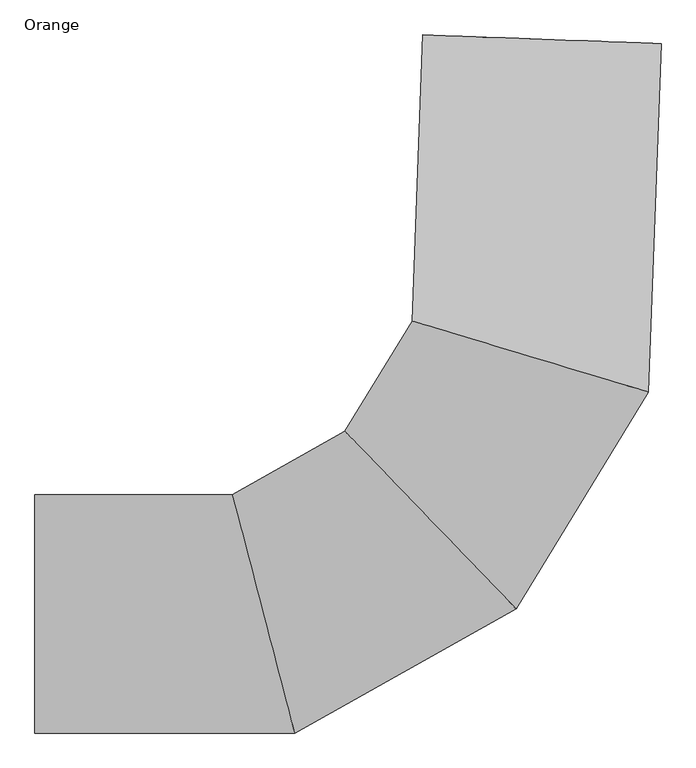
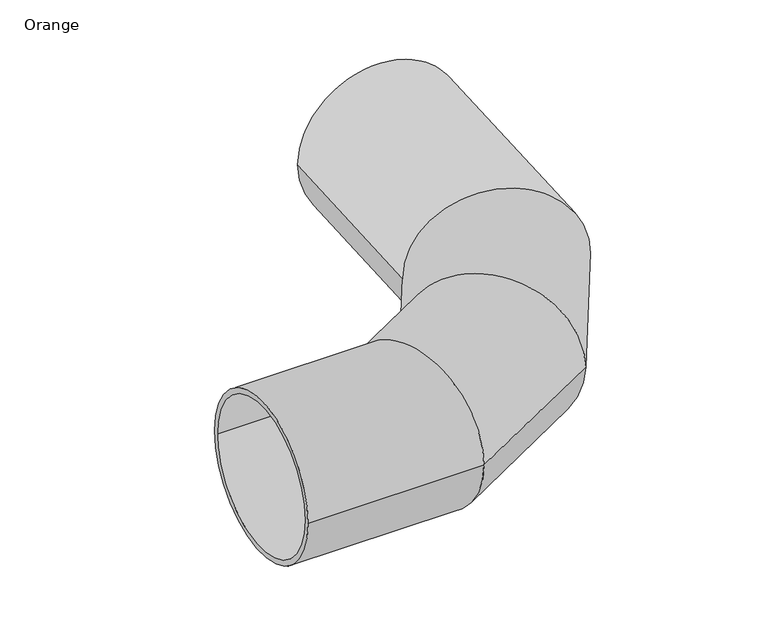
"""IFC4 building model written with IfcOpenShell, lengths in millimetres: pipe fitting geometry, AWADUKT PP SN10 SBend : Orange."""

from ifc_helpers import new_model, si_unit, frame, origin, place, context, project, spatial, polyline, circle_curve, ellipse_curve, source, transform, mapped, element, save
from ifc_brep_helpers import plane_surface, cylinder_surface, revolved_surface, advanced_brep


def orange_127dd680(model_context):
    return source(origin(), model_context, "Body", "AdvancedBrep", [
        advanced_brep(
        [(-1283.5, -315.0, 0.0), (-1283.5, 315.0, 0.0), (-1283.5, -293.4, 0.0), (-1283.5, 293.4, 0.0), (370.4319157, 1505.9373977, 0.0), (-259.1449724, 1529.0229342, 0.0), (348.8464224, 1506.7289018, 0.0), (-237.5594791, 1528.2314301, 0.0), (-603.2824535, -293.4, 0.0), (-756.6793533, 293.4, 0.0), (-597.6359418, -315.0, 0.0), (-762.325865, 315.0, 0.0), (-28.2426788, 29.2972715, 0.0), (-449.1850243, 465.9577696, 0.0), (-12.7478685, 13.223879, 0.0), (-464.6798346, 482.0311622, 0.0), (315.3094572, 592.1260211, 0.0), (-265.4754129, 766.9224269, 0.0), (336.6880414, 585.6917976, 0.0), (-286.8539971, 773.3566504, 0.0)],
        [
            (0, 1, circle_curve(frame((-1283.5, 0.0, 0.0), z_axis=(-1.0, 0.0, 0.0), x_axis=(0.0, 1.0, 0.0)), 315.0)),
            (1, 0, circle_curve(frame((-1283.5, 0.0, 0.0), z_axis=(-1.0, 0.0, 0.0), x_axis=(0.0, 1.0, 0.0)), 315.0)),
            (2, 3, circle_curve(frame((-1283.5, 0.0, 0.0), z_axis=(1.0, 0.0, 0.0), x_axis=(0.0, 1.0, 0.0)), 293.4)),
            (3, 2, circle_curve(frame((-1283.5, 0.0, 0.0), z_axis=(1.0, 0.0, 0.0), x_axis=(0.0, 1.0, 0.0)), 293.4)),
            (4, 5, circle_curve(frame((55.6434717, 1517.480166, 0.0), z_axis=(0.03664370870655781, 0.9993283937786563, 0.0), x_axis=(-0.9993283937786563, 0.03664370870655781, 0.0)), 315.0)),
            (5, 4, circle_curve(frame((55.6434717, 1517.480166, 0.0), z_axis=(0.03664370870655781, 0.9993283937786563, 0.0), x_axis=(-0.9993283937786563, 0.03664370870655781, 0.0)), 315.0)),
            (6, 7, circle_curve(frame((55.6434717, 1517.480166, 0.0), z_axis=(-0.03664370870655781, -0.9993283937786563, 0.0), x_axis=(-0.9993283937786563, 0.03664370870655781, 0.0)), 293.4)),
            (7, 6, circle_curve(frame((55.6434717, 1517.480166, 0.0), z_axis=(-0.03664370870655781, -0.9993283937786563, 0.0), x_axis=(-0.9993283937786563, 0.03664370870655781, 0.0)), 293.4)),
            (2, 8),
            (8, 9, ellipse_curve(frame((-679.9809034, 0.0, 0.0), z_axis=(0.9674888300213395, 0.2529137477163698, 0.0), x_axis=(0.2529137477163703, -0.9674888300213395, 0.0)), 303.2593151, 293.4)),
            (9, 3),
            (9, 8, ellipse_curve(frame((-679.9809034, 0.0, 0.0), z_axis=(0.9674888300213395, 0.2529137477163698, 0.0), x_axis=(0.2529137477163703, -0.9674888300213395, 0.0)), 303.2593151, 293.4)),
            (0, 10),
            (10, 11, ellipse_curve(frame((-679.9809034, 0.0, 0.0), z_axis=(-0.9674888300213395, -0.2529137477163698, 0.0), x_axis=(-0.2529137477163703, 0.9674888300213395, 0.0)), 325.5851543, 315.0)),
            (11, 1),
            (11, 10, ellipse_curve(frame((-679.9809034, 0.0, 0.0), z_axis=(-0.9674888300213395, -0.2529137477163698, 0.0), x_axis=(-0.2529137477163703, 0.9674888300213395, 0.0)), 325.5851543, 315.0)),
            (8, 12),
            (12, 13, ellipse_curve(frame((-238.7138516, 247.6275206, 0.0), z_axis=(0.7199457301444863, 0.6940303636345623, 0.0), x_axis=(0.6940303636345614, -0.7199457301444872, 0.0)), 303.2593151, 293.4)),
            (13, 9),
            (13, 12, ellipse_curve(frame((-238.7138516, 247.6275206, 0.0), z_axis=(0.7199457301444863, 0.6940303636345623, 0.0), x_axis=(0.6940303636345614, -0.7199457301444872, 0.0)), 303.2593151, 293.4)),
            (10, 14),
            (14, 15, ellipse_curve(frame((-238.7138516, 247.6275206, 0.0), z_axis=(-0.7199457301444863, -0.6940303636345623, 0.0), x_axis=(-0.6940303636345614, 0.7199457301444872, 0.0)), 325.5851543, 315.0)),
            (15, 11),
            (15, 14, ellipse_curve(frame((-238.7138516, 247.6275206, 0.0), z_axis=(-0.7199457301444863, -0.6940303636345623, 0.0), x_axis=(-0.6940303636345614, 0.7199457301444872, 0.0)), 325.5851543, 315.0)),
            (12, 16),
            (16, 17, ellipse_curve(frame((24.9170222, 679.524224, 0.0), z_axis=(0.2881962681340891, 0.9575713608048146, 0.0), x_axis=(0.9575713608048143, -0.28819626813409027, 0.0)), 303.2593151, 293.4)),
            (17, 13),
            (17, 16, ellipse_curve(frame((24.9170222, 679.524224, 0.0), z_axis=(0.2881962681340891, 0.9575713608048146, 0.0), x_axis=(0.9575713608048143, -0.28819626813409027, 0.0)), 303.2593151, 293.4)),
            (14, 18),
            (18, 19, ellipse_curve(frame((24.9170222, 679.524224, 0.0), z_axis=(-0.2881962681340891, -0.9575713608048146, 0.0), x_axis=(-0.9575713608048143, 0.28819626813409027, 0.0)), 325.5851543, 315.0)),
            (19, 15),
            (19, 18, ellipse_curve(frame((24.9170222, 679.524224, 0.0), z_axis=(-0.2881962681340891, -0.9575713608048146, 0.0), x_axis=(-0.9575713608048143, 0.28819626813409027, 0.0)), 325.5851543, 315.0)),
            (16, 6),
            (7, 17),
            (18, 4),
            (5, 19),
        ],
        [
            plane_surface(frame((-1283.5, 0.0, 0.0), z_axis=(-1.0, 0.0, 0.0), x_axis=(0.0, 0.0, 1.0))),
            plane_surface(frame((55.6434717, 1517.480166, 0.0), z_axis=(0.036643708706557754, 0.9993283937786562, 0.0), x_axis=(0.0, 0.0, 1.0))),
            revolved_surface(polyline([(-603.2824534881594, 293.4, 0.0), (-1283.5, 293.4, 0.0)]), (-1283.5, 0.0, 0.0), (1.0, 0.0, 0.0)),
            cylinder_surface(frame((-1283.5, 0.0, 0.0), z_axis=(-1.0, 0.0, 0.0), x_axis=(0.0, 1.0, 0.0)), 315.0),
            revolved_surface(polyline([(-315.4123014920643, 541.027520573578, 0.0), (-890.4520761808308, 218.3302490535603, 0.0)]), (-679.9809034, 0.0, 0.0), (0.8720692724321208, 0.4893824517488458, 0.0)),
            cylinder_surface(frame((-679.9809034, 0.0, 0.0), z_axis=(-0.8720692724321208, -0.4893824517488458, 0.0), x_axis=(-0.4893824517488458, 0.8720692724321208, 0.0)), 315.0),
            revolved_surface(polyline([(-185.55415064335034, 897.8544730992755, 0.0), (-529.1062866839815, 335.0257234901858, 0.0)]), (-238.7138516, 247.6275206, 0.0), (0.5210096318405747, 0.8535507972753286, 0.0)),
            cylinder_surface(frame((-238.7138516, 247.6275206, 0.0), z_axis=(-0.5210096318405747, -0.8535507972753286, 0.0), x_axis=(-0.8535507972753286, 0.5210096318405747, 0.0)), 315.0),
            revolved_surface(polyline([(-237.5594790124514, 1528.23143013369, 0.0), (-271.0964441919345, 613.6285493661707, 0.0)]), (24.9170222, 679.524224, 0.0), (0.03664370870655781, 0.9993283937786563, 0.0)),
            cylinder_surface(frame((24.9170222, 679.524224, 0.0), z_axis=(-0.03664370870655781, -0.9993283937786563, 0.0), x_axis=(-0.9993283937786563, 0.03664370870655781, 0.0)), 315.0),
        ],
        [
            (0, [[1, 2], [3, 4]]),
            (1, [[5, 6], [7, 8]]),
            (2, [[-3, 9, 10, 11]]),
            (2, [[-4, -11, 12, -9]]),
            (3, [[-1, 13, 14, 15]]),
            (3, [[-2, -15, 16, -13]]),
            (4, [[-10, 17, 18, 19]]),
            (4, [[-12, -19, 20, -17]]),
            (5, [[-14, 21, 22, 23]]),
            (5, [[-16, -23, 24, -21]]),
            (6, [[-18, 25, 26, 27]]),
            (6, [[-20, -27, 28, -25]]),
            (7, [[-22, 29, 30, 31]]),
            (7, [[-24, -31, 32, -29]]),
            (8, [[-26, 33, -8, 34]]),
            (8, [[-28, -34, -7, -33]]),
            (9, [[-30, 35, -6, 36]]),
            (9, [[-32, -36, -5, -35]]),
        ],
    ),
    ])


if __name__ == "__main__":
    model = new_model("IFC4")
    model_context = context("Model", 3, world=origin())
    ifc_project = project(units=[si_unit("LENGTHUNIT", "METRE", prefix="MILLI")], contexts=[model_context])
    site = spatial("IfcSite", under=ifc_project)
    building = spatial("IfcBuilding", under=site)
    placement = place(None, origin())
    orange_shape = orange_127dd680(model_context)
    element("IfcPipeFitting", 1, ObjectType="AWADUKT PP SN10 SBend : Orange", at=placement, inside=building, context=model_context, shape_type="MappedRepresentation", body=[
        mapped(orange_shape, transform((0.0, 0.0, 0.0), x_axis=(1.0, 0.0, 0.0), y_axis=(0.0, 1.0, 0.0), z_axis=(0.0, 0.0, 1.0))),
    ])
    save(model, "model.ifc")
